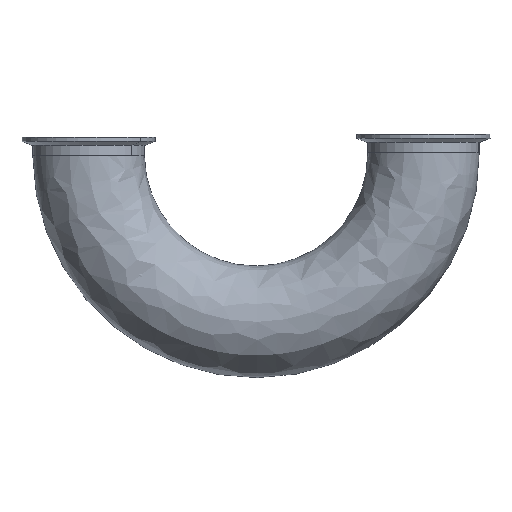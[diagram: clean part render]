
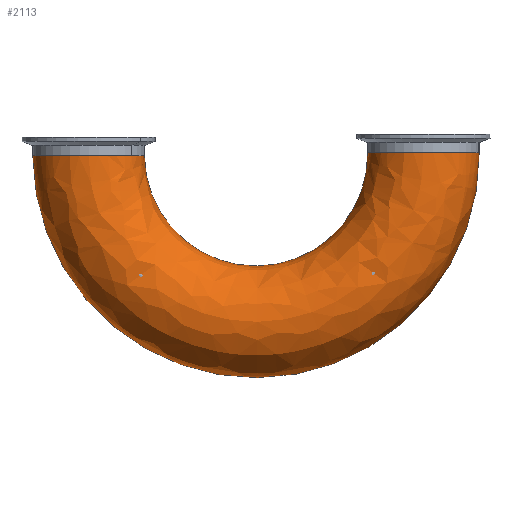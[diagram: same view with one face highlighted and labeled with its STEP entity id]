
A CAD part, front view. The second image highlights one B-rep face of the part: STEP entity #2113.
In plain terms, the highlighted free-form (B-spline) face has degree [3, 3] with [4, 4] control points.
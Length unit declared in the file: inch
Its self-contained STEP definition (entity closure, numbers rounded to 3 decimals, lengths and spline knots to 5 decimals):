
#211 = DIRECTION ( 'NONE',  ( 0., 0., -1. ) ) ;
#273 = CARTESIAN_POINT ( 'NONE',  ( -7.41908, 0., -6.0802 ) ) ;
#387 = CIRCLE ( 'NONE', #4271, 5.99995 ) ;
#407 = EDGE_CURVE ( 'NONE', #4826, #786, #387, .T. ) ;
#439 = DIRECTION ( 'NONE',  ( 0., -1., 0. ) ) ;
#568 =( BOUNDED_SURFACE ( )  B_SPLINE_SURFACE ( 3, 3, ( 
 ( #6228, #273, #6357, #649 ),
 ( #1668, #2739, #2220, #4728 ),
 ( #2715, #5761, #746, #6249 ),
 ( #6329, #6304, #6276, #6205 ) ),
 .UNSPECIFIED., .F., .F., .T. ) 
 B_SPLINE_SURFACE_WITH_KNOTS ( ( 4, 4 ),
 ( 4, 4 ),
 ( 0., 1. ),
 ( 0., 1. ),
 .UNSPECIFIED. ) 
 GEOMETRIC_REPRESENTATION_ITEM ( )  RATIONAL_B_SPLINE_SURFACE ( (
 ( 1., 0.333, 0.333, 1.),
 ( 0.333, 0.111, 0.111, 0.333),
 ( 0.333, 0.111, 0.111, 0.333),
 ( 1., 0.333, 0.333, 1.) ) ) 
 REPRESENTATION_ITEM ( '' )  SURFACE ( )  );
#634 = CARTESIAN_POINT ( 'NONE',  ( 0., 0., 0. ) ) ;
#642 = ORIENTED_EDGE ( 'NONE', *, *, #732, .F. ) ;
#649 = CARTESIAN_POINT ( 'NONE',  ( -1.5, 0., 0. ) ) ;
#732 = EDGE_CURVE ( 'NONE', #3996, #5485, #1078, .T. ) ;
#746 = CARTESIAN_POINT ( 'NONE',  ( 1.58056, -3., -11.99964 ) ) ;
#786 = VERTEX_POINT ( 'NONE', #1430 ) ;
#906 = ORIENTED_EDGE ( 'NONE', *, *, #5270, .T. ) ;
#1078 = CIRCLE ( 'NONE', #4086, 3.00009 ) ;
#1140 = DIRECTION ( 'NONE',  ( 1., 0., 0. ) ) ;
#1430 = CARTESIAN_POINT ( 'NONE',  ( 1.5, 0., 0. ) ) ;
#1449 = CARTESIAN_POINT ( 'NONE',  ( -4.49982, 0., -0.04028 ) ) ;
#1459 = ORIENTED_EDGE ( 'NONE', *, *, #407, .T. ) ;
#1468 = DIRECTION ( 'NONE',  ( -1., 0., -0.007 ) ) ;
#1574 = AXIS2_PLACEMENT_3D ( 'NONE', #3291, #211, #3791 ) ;
#1590 = CARTESIAN_POINT ( 'NONE',  ( -7.49964, 0., -0.08056 ) ) ;
#1631 = CARTESIAN_POINT ( 'NONE',  ( -10.49964, 0., -0.08056 ) ) ;
#1668 = CARTESIAN_POINT ( 'NONE',  ( -7.49964, -3., -0.08056 ) ) ;
#1830 = CARTESIAN_POINT ( 'NONE',  ( -1.5, 0., 0. ) ) ;
#1847 = AXIS2_PLACEMENT_3D ( 'NONE', #634, #4192, #1140 ) ;
#2113 = ADVANCED_FACE ( 'NONE', ( #2385 ), #568, .T. ) ;
#2220 = CARTESIAN_POINT ( 'NONE',  ( -1.41944, -3., -5.99964 ) ) ;
#2385 = FACE_OUTER_BOUND ( 'NONE', #2434, .T. ) ;
#2434 = EDGE_LOOP ( 'NONE', ( #642, #906, #1459, #4955 ) ) ;
#2715 = CARTESIAN_POINT ( 'NONE',  ( -10.49964, -3., -0.08056 ) ) ;
#2739 = CARTESIAN_POINT ( 'NONE',  ( -7.41908, -3., -6.0802 ) ) ;
#3291 = CARTESIAN_POINT ( 'NONE',  ( -8.99964, 0., -0.08056 ) ) ;
#3410 = DIRECTION ( 'NONE',  ( -1., 0., -0.013 ) ) ;
#3523 = DIRECTION ( 'NONE',  ( 0., -1., 0. ) ) ;
#3791 = DIRECTION ( 'NONE',  ( -1., 0., 0. ) ) ;
#3996 = VERTEX_POINT ( 'NONE', #1590 ) ;
#4086 = AXIS2_PLACEMENT_3D ( 'NONE', #6526, #439, #3410 ) ;
#4192 = DIRECTION ( 'NONE',  ( 0., 0., 1. ) ) ;
#4271 = AXIS2_PLACEMENT_3D ( 'NONE', #1449, #3523, #1468 ) ;
#4728 = CARTESIAN_POINT ( 'NONE',  ( -1.5, -3., 0. ) ) ;
#4826 = VERTEX_POINT ( 'NONE', #1631 ) ;
#4860 = EDGE_CURVE ( 'NONE', #5485, #786, #5547, .T. ) ;
#4955 = ORIENTED_EDGE ( 'NONE', *, *, #4860, .F. ) ;
#5270 = EDGE_CURVE ( 'NONE', #3996, #4826, #5987, .T. ) ;
#5485 = VERTEX_POINT ( 'NONE', #1830 ) ;
#5547 = CIRCLE ( 'NONE', #1847, 1.5 ) ;
#5761 = CARTESIAN_POINT ( 'NONE',  ( -10.41908, -3., -12.0802 ) ) ;
#5987 = CIRCLE ( 'NONE', #1574, 1.5 ) ;
#6205 = CARTESIAN_POINT ( 'NONE',  ( 1.5, 0., 0. ) ) ;
#6228 = CARTESIAN_POINT ( 'NONE',  ( -7.49964, 0., -0.08056 ) ) ;
#6249 = CARTESIAN_POINT ( 'NONE',  ( 1.5, -3., 0. ) ) ;
#6276 = CARTESIAN_POINT ( 'NONE',  ( 1.58056, 0., -11.99964 ) ) ;
#6304 = CARTESIAN_POINT ( 'NONE',  ( -10.41908, 0., -12.0802 ) ) ;
#6329 = CARTESIAN_POINT ( 'NONE',  ( -10.49964, 0., -0.08056 ) ) ;
#6357 = CARTESIAN_POINT ( 'NONE',  ( -1.41944, 0., -5.99964 ) ) ;
#6526 = CARTESIAN_POINT ( 'NONE',  ( -4.49982, 0., -0.04028 ) ) ;
